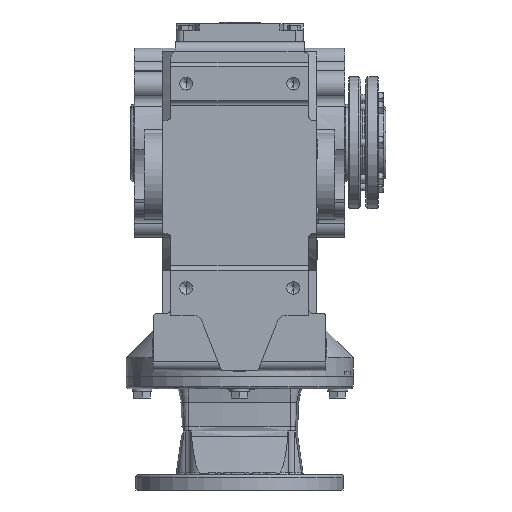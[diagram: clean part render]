
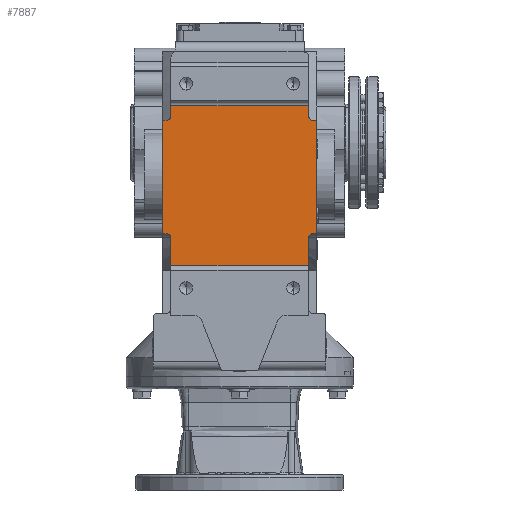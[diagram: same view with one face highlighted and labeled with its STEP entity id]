
A CAD part, front view. The second image highlights one B-rep face of the part: STEP entity #7887.
In plain terms, the highlighted planar face has unit normal (0, -1, 0).
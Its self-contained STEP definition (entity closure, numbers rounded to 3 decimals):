
#469 = EDGE_CURVE ( 'NONE', #35287, #35490, #44516, .T. ) ;
#471 = EDGE_CURVE ( 'NONE', #35287, #17264, #44519, .T. ) ;
#473 = EDGE_CURVE ( 'NONE', #35539, #17264, #44523, .T. ) ;
#478 = EDGE_CURVE ( 'NONE', #35539, #35828, #44531, .T. ) ;
#527 = EDGE_CURVE ( 'NONE', #17230, #35828, #44541, .T. ) ;
#5889 = CARTESIAN_POINT ( 'NONE',  ( 85., -206., 7. ) ) ;
#5890 = DIRECTION ( 'NONE',  ( 0., 0., -1. ) ) ;
#5891 = CARTESIAN_POINT ( 'NONE',  ( -76., -206., -100. ) ) ;
#5892 = DIRECTION ( 'NONE',  ( -1., 0., 0. ) ) ;
#5893 = CARTESIAN_POINT ( 'NONE',  ( -85., -206., 7. ) ) ;
#5894 = DIRECTION ( 'NONE',  ( 0., 0., 1. ) ) ;
#5895 = CARTESIAN_POINT ( 'NONE',  ( -76., -206., 46. ) ) ;
#5896 = DIRECTION ( 'NONE',  ( 0., 0., 1. ) ) ;
#5897 = CARTESIAN_POINT ( 'NONE',  ( 76., -206., 46. ) ) ;
#5898 = DIRECTION ( 'NONE',  ( 0., 0., -1. ) ) ;
#5909 = CARTESIAN_POINT ( 'NONE',  ( -76., -206., 24.651 ) ) ;
#5910 = DIRECTION ( 'NONE',  ( 1., 0., 0. ) ) ;
#6057 = CARTESIAN_POINT ( 'NONE',  ( -112., -206., 41. ) ) ;
#6058 = DIRECTION ( 'NONE',  ( -1., 0., 0. ) ) ;
#6059 = CARTESIAN_POINT ( 'NONE',  ( -81., -206., 29.651 ) ) ;
#6060 = DIRECTION ( 'NONE',  ( 0., 1., 0. ) ) ;
#6061 = DIRECTION ( 'NONE',  ( 0., 0., -1. ) ) ;
#6092 = CARTESIAN_POINT ( 'NONE',  ( 81., -206., 29.651 ) ) ;
#6093 = DIRECTION ( 'NONE',  ( 0., 1., 0. ) ) ;
#6094 = DIRECTION ( 'NONE',  ( 0., 0., -1. ) ) ;
#6319 = CARTESIAN_POINT ( 'NONE',  ( 85., -206., 24.651 ) ) ;
#6320 = DIRECTION ( 'NONE',  ( 1., 0., 0. ) ) ;
#6985 = DIRECTION ( 'NONE',  ( 0., 0., -1. ) ) ;
#6986 = DIRECTION ( 'NONE',  ( 0., 1., 0. ) ) ;
#6987 = CARTESIAN_POINT ( 'NONE',  ( -81., -206., -105. ) ) ;
#7011 = DIRECTION ( 'NONE',  ( 0., 0., 1. ) ) ;
#7012 = CARTESIAN_POINT ( 'NONE',  ( -76., -206., -103. ) ) ;
#7029 = DIRECTION ( 'NONE',  ( 0., 0., -1. ) ) ;
#7030 = CARTESIAN_POINT ( 'NONE',  ( 76., -206., -100. ) ) ;
#7032 = DIRECTION ( 'NONE',  ( 0., 0., -1. ) ) ;
#7033 = DIRECTION ( 'NONE',  ( 0., 1., 0. ) ) ;
#7034 = CARTESIAN_POINT ( 'NONE',  ( 81., -206., -105. ) ) ;
#7036 = CARTESIAN_POINT ( 'NONE',  ( -112., -206., -135.346 ) ) ;
#7037 = DIRECTION ( 'NONE',  ( 1., 0., 0. ) ) ;
#7887 = ADVANCED_FACE ( 'NONE', ( #42605 ), #34187, .T. ) ;
#8266 = EDGE_CURVE ( 'NONE', #34788, #35097, #36010, .T. ) ;
#8267 = EDGE_CURVE ( 'NONE', #17230, #34338, #36012, .T. ) ;
#8268 = EDGE_CURVE ( 'NONE', #34338, #34336, #36014, .T. ) ;
#8269 = EDGE_CURVE ( 'NONE', #34267, #34193, #36016, .T. ) ;
#8270 = EDGE_CURVE ( 'NONE', #34287, #34229, #36018, .T. ) ;
#8275 = EDGE_CURVE ( 'NONE', #34336, #34188, #36026, .T. ) ;
#8309 = EDGE_CURVE ( 'NONE', #34267, #34188, #36066, .T. ) ;
#8312 = EDGE_CURVE ( 'NONE', #34287, #34193, #36071, .T. ) ;
#8324 = EDGE_CURVE ( 'NONE', #34793, #34229, #36089, .T. ) ;
#8375 = EDGE_CURVE ( 'NONE', #34793, #34788, #36154, .T. ) ;
#8442 = EDGE_CURVE ( 'NONE', #35490, #35097, #36243, .T. ) ;
#10331 = AXIS2_PLACEMENT_3D ( 'NONE', #6059, #6060, #6061 ) ;
#10334 = AXIS2_PLACEMENT_3D ( 'NONE', #6092, #6093, #6094 ) ;
#11600 = AXIS2_PLACEMENT_3D ( 'NONE', #7034, #7033, #7032 ) ;
#11605 = AXIS2_PLACEMENT_3D ( 'NONE', #6987, #6986, #6985 ) ;
#17230 = VERTEX_POINT ( 'NONE', #30872 ) ;
#17264 = VERTEX_POINT ( 'NONE', #30884 ) ;
#29511 = CARTESIAN_POINT ( 'NONE',  ( 76., -206., -100. ) ) ;
#29513 = DIRECTION ( 'NONE',  ( 1., 0., 0. ) ) ;
#30872 = CARTESIAN_POINT ( 'NONE',  ( -81., -206., -100. ) ) ;
#30884 = CARTESIAN_POINT ( 'NONE',  ( 76., -206., -135.346 ) ) ;
#34180 = CARTESIAN_POINT ( 'NONE',  ( -112., -206., 7. ) ) ;
#34188 = VERTEX_POINT ( 'NONE', #61394 ) ;
#34187 = PLANE ( 'NONE',  #63312 ) ;
#34190 = DIRECTION ( 'NONE',  ( 0., -1., 0. ) ) ;
#34192 = DIRECTION ( 'NONE',  ( 0., 0., -1. ) ) ;
#34193 = VERTEX_POINT ( 'NONE', #61396 ) ;
#34229 = VERTEX_POINT ( 'NONE', #61413 ) ;
#34267 = VERTEX_POINT ( 'NONE', #61428 ) ;
#34287 = VERTEX_POINT ( 'NONE', #61437 ) ;
#34336 = VERTEX_POINT ( 'NONE', #61461 ) ;
#34338 = VERTEX_POINT ( 'NONE', #61462 ) ;
#34788 = VERTEX_POINT ( 'NONE', #61663 ) ;
#34793 = VERTEX_POINT ( 'NONE', #61665 ) ;
#35097 = VERTEX_POINT ( 'NONE', #61890 ) ;
#35287 = VERTEX_POINT ( 'NONE', #62031 ) ;
#35490 = VERTEX_POINT ( 'NONE', #62189 ) ;
#35539 = VERTEX_POINT ( 'NONE', #62224 ) ;
#35828 = VERTEX_POINT ( 'NONE', #44840 ) ;
#36010 = LINE ( 'NONE', #5889, #36013 ) ;
#36012 = LINE ( 'NONE', #5891, #36015 ) ;
#36013 = VECTOR ( 'NONE', #5890, 1000. ) ;
#36014 = LINE ( 'NONE', #5893, #36017 ) ;
#36015 = VECTOR ( 'NONE', #5892, 1000. ) ;
#36016 = LINE ( 'NONE', #5895, #36019 ) ;
#36017 = VECTOR ( 'NONE', #5894, 1000. ) ;
#36018 = LINE ( 'NONE', #5897, #36021 ) ;
#36019 = VECTOR ( 'NONE', #5896, 1000. ) ;
#36021 = VECTOR ( 'NONE', #5898, 1000. ) ;
#36026 = LINE ( 'NONE', #5909, #36029 ) ;
#36029 = VECTOR ( 'NONE', #5910, 1000. ) ;
#36066 = CIRCLE ( 'NONE', #10331, 5. ) ;
#36071 = LINE ( 'NONE', #6057, #36073 ) ;
#36073 = VECTOR ( 'NONE', #6058, 1000. ) ;
#36089 = CIRCLE ( 'NONE', #10334, 5. ) ;
#36154 = LINE ( 'NONE', #6319, #36156 ) ;
#36156 = VECTOR ( 'NONE', #6320, 1000. ) ;
#36243 = LINE ( 'NONE', #29511, #36246 ) ;
#36246 = VECTOR ( 'NONE', #29513, 1000. ) ;
#42605 = FACE_OUTER_BOUND ( 'NONE', #51938, .T. ) ;
#44516 = CIRCLE ( 'NONE', #11600, 5. ) ;
#44519 = LINE ( 'NONE', #7030, #44522 ) ;
#44522 = VECTOR ( 'NONE', #7029, 1000. ) ;
#44523 = LINE ( 'NONE', #7036, #44525 ) ;
#44525 = VECTOR ( 'NONE', #7037, 1000. ) ;
#44531 = LINE ( 'NONE', #7012, #44534 ) ;
#44534 = VECTOR ( 'NONE', #7011, 1000. ) ;
#44541 = CIRCLE ( 'NONE', #11605, 5. ) ;
#44840 = CARTESIAN_POINT ( 'NONE',  ( -76., -206., -105. ) ) ;
#51938 = EDGE_LOOP ( 'NONE', ( #52696, #52692, #52686, #52682, #52676, #52674, #52668, #52664, #52658, #52654, #52652, #52650, #52648, #52646, #52644, #52642 ) ) ;
#52642 = ORIENTED_EDGE ( 'NONE', *, *, #8324, .T. ) ;
#52644 = ORIENTED_EDGE ( 'NONE', *, *, #8375, .F. ) ;
#52646 = ORIENTED_EDGE ( 'NONE', *, *, #8266, .F. ) ;
#52648 = ORIENTED_EDGE ( 'NONE', *, *, #8442, .T. ) ;
#52650 = ORIENTED_EDGE ( 'NONE', *, *, #469, .T. ) ;
#52652 = ORIENTED_EDGE ( 'NONE', *, *, #471, .F. ) ;
#52654 = ORIENTED_EDGE ( 'NONE', *, *, #473, .T. ) ;
#52658 = ORIENTED_EDGE ( 'NONE', *, *, #478, .F. ) ;
#52664 = ORIENTED_EDGE ( 'NONE', *, *, #527, .T. ) ;
#52668 = ORIENTED_EDGE ( 'NONE', *, *, #8267, .F. ) ;
#52674 = ORIENTED_EDGE ( 'NONE', *, *, #8268, .F. ) ;
#52676 = ORIENTED_EDGE ( 'NONE', *, *, #8275, .F. ) ;
#52682 = ORIENTED_EDGE ( 'NONE', *, *, #8309, .T. ) ;
#52686 = ORIENTED_EDGE ( 'NONE', *, *, #8269, .F. ) ;
#52692 = ORIENTED_EDGE ( 'NONE', *, *, #8312, .T. ) ;
#52696 = ORIENTED_EDGE ( 'NONE', *, *, #8270, .F. ) ;
#61394 = CARTESIAN_POINT ( 'NONE',  ( -81., -206., 24.651 ) ) ;
#61396 = CARTESIAN_POINT ( 'NONE',  ( -76., -206., 41. ) ) ;
#61413 = CARTESIAN_POINT ( 'NONE',  ( 76., -206., 29.651 ) ) ;
#61428 = CARTESIAN_POINT ( 'NONE',  ( -76., -206., 29.651 ) ) ;
#61437 = CARTESIAN_POINT ( 'NONE',  ( 76., -206., 41. ) ) ;
#61461 = CARTESIAN_POINT ( 'NONE',  ( -85., -206., 24.651 ) ) ;
#61462 = CARTESIAN_POINT ( 'NONE',  ( -85., -206., -100. ) ) ;
#61663 = CARTESIAN_POINT ( 'NONE',  ( 85., -206., 24.651 ) ) ;
#61665 = CARTESIAN_POINT ( 'NONE',  ( 81., -206., 24.651 ) ) ;
#61890 = CARTESIAN_POINT ( 'NONE',  ( 85., -206., -100. ) ) ;
#62031 = CARTESIAN_POINT ( 'NONE',  ( 76., -206., -105. ) ) ;
#62189 = CARTESIAN_POINT ( 'NONE',  ( 81., -206., -100. ) ) ;
#62224 = CARTESIAN_POINT ( 'NONE',  ( -76., -206., -135.346 ) ) ;
#63312 = AXIS2_PLACEMENT_3D ( 'NONE', #34180, #34190, #34192 ) ;
